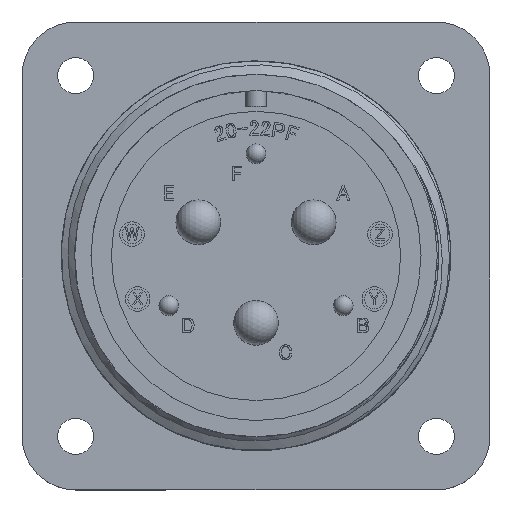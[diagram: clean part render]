
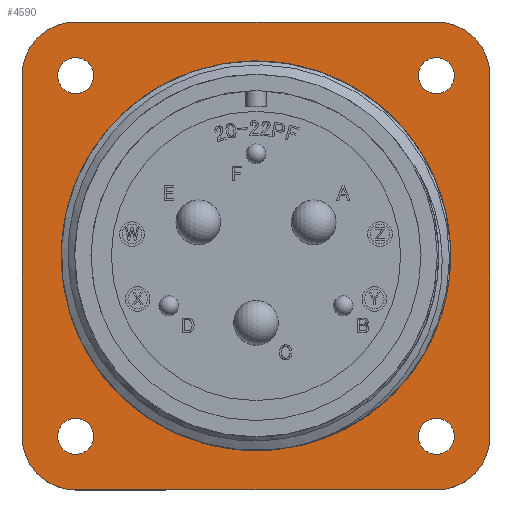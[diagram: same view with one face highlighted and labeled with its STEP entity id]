
A CAD part, top view. The second image highlights one B-rep face of the part: STEP entity #4590.
In plain terms, the highlighted planar face has unit normal (0, 0, 1).
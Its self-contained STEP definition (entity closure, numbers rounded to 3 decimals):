
#312 = VERTEX_POINT ( 'NONE', #29343 ) ;
#724 = CARTESIAN_POINT ( 'NONE',  ( 16.15, 14.685, -19.24 ) ) ;
#1173 = DIRECTION ( 'NONE',  ( 0., 1., 0. ) ) ;
#1217 = CIRCLE ( 'NONE', #15092, 1.465 ) ;
#1410 = CARTESIAN_POINT ( 'NONE',  ( -14.68, -19.05, -19.24 ) ) ;
#1427 = DIRECTION ( 'NONE',  ( 1., 0., 0. ) ) ;
#1514 = DIRECTION ( 'NONE',  ( 0., 0., 1. ) ) ;
#1749 = PLANE ( 'NONE',  #9913 ) ;
#2281 = DIRECTION ( 'NONE',  ( 1., 0., 0. ) ) ;
#2464 = DIRECTION ( 'NONE',  ( 0., -1., 0. ) ) ;
#2487 = EDGE_CURVE ( 'NONE', #3847, #20342, #5846, .T. ) ;
#2600 = CIRCLE ( 'NONE', #15945, 4.37 ) ;
#2661 = CARTESIAN_POINT ( 'NONE',  ( -14.68, 19.05, -19.24 ) ) ;
#3239 = CARTESIAN_POINT ( 'NONE',  ( -14.68, 19.05, -19.24 ) ) ;
#3271 = VERTEX_POINT ( 'NONE', #15552 ) ;
#3437 = CARTESIAN_POINT ( 'NONE',  ( 14.685, 14.685, -19.24 ) ) ;
#3646 = CIRCLE ( 'NONE', #27382, 1.465 ) ;
#3789 = AXIS2_PLACEMENT_3D ( 'NONE', #3437, #14657, #1427 ) ;
#3847 = VERTEX_POINT ( 'NONE', #2661 ) ;
#3963 = AXIS2_PLACEMENT_3D ( 'NONE', #7574, #21047, #9480 ) ;
#4055 = DIRECTION ( 'NONE',  ( -1., 0., 0. ) ) ;
#4519 = VECTOR ( 'NONE', #25358, 1000. ) ;
#4590 = ADVANCED_FACE ( 'NONE', ( #18224, #17866, #17146, #11130, #16449, #10419 ), #1749, .F. ) ;
#5628 = ORIENTED_EDGE ( 'NONE', *, *, #20134, .F. ) ;
#5810 = ORIENTED_EDGE ( 'NONE', *, *, #19219, .T. ) ;
#5846 = CIRCLE ( 'NONE', #3963, 4.37 ) ;
#6413 = ORIENTED_EDGE ( 'NONE', *, *, #2487, .T. ) ;
#6441 = VERTEX_POINT ( 'NONE', #16338 ) ;
#6987 = DIRECTION ( 'NONE',  ( 0., 0., 1. ) ) ;
#7023 = CARTESIAN_POINT ( 'NONE',  ( -15.855, 0., -19.24 ) ) ;
#7183 = CARTESIAN_POINT ( 'NONE',  ( 0., 0., -19.24 ) ) ;
#7574 = CARTESIAN_POINT ( 'NONE',  ( -14.68, 14.68, -19.24 ) ) ;
#7725 = ORIENTED_EDGE ( 'NONE', *, *, #18468, .T. ) ;
#8230 = CARTESIAN_POINT ( 'NONE',  ( -14.685, -14.685, -19.24 ) ) ;
#8465 = AXIS2_PLACEMENT_3D ( 'NONE', #7183, #6987, #11759 ) ;
#8971 = DIRECTION ( 'NONE',  ( 0., 0., 1. ) ) ;
#9324 = ORIENTED_EDGE ( 'NONE', *, *, #20627, .T. ) ;
#9480 = DIRECTION ( 'NONE',  ( -1., 0., 0. ) ) ;
#9528 = VERTEX_POINT ( 'NONE', #24849 ) ;
#9606 = CARTESIAN_POINT ( 'NONE',  ( 14.685, -16.15, -19.24 ) ) ;
#9807 = CARTESIAN_POINT ( 'NONE',  ( 14.68, 14.68, -19.24 ) ) ;
#9913 = AXIS2_PLACEMENT_3D ( 'NONE', #23979, #24384, #4055 ) ;
#10419 = FACE_BOUND ( 'NONE', #18592, .T. ) ;
#10603 = AXIS2_PLACEMENT_3D ( 'NONE', #9807, #27815, #25645 ) ;
#10784 = CIRCLE ( 'NONE', #10603, 4.37 ) ;
#10790 = DIRECTION ( 'NONE',  ( 1., 0., 0. ) ) ;
#10983 = VERTEX_POINT ( 'NONE', #17490 ) ;
#11007 = VECTOR ( 'NONE', #10790, 1000. ) ;
#11130 = FACE_BOUND ( 'NONE', #21541, .T. ) ;
#11233 = EDGE_CURVE ( 'NONE', #28095, #28095, #16191, .T. ) ;
#11532 = EDGE_LOOP ( 'NONE', ( #23604 ) ) ;
#11759 = DIRECTION ( 'NONE',  ( -1., 0., 0. ) ) ;
#11827 = CARTESIAN_POINT ( 'NONE',  ( 19.05, -14.68, -19.24 ) ) ;
#11891 = EDGE_LOOP ( 'NONE', ( #5628 ) ) ;
#13039 = CARTESIAN_POINT ( 'NONE',  ( 14.68, -14.68, -19.24 ) ) ;
#13246 = DIRECTION ( 'NONE',  ( 0., 1., 0. ) ) ;
#13573 = CARTESIAN_POINT ( 'NONE',  ( -19.05, 14.68, -19.24 ) ) ;
#13718 = VERTEX_POINT ( 'NONE', #11827 ) ;
#14296 = AXIS2_PLACEMENT_3D ( 'NONE', #26241, #1514, #21556 ) ;
#14657 = DIRECTION ( 'NONE',  ( 0., 0., 1. ) ) ;
#14735 = EDGE_CURVE ( 'NONE', #10983, #13718, #2600, .T. ) ;
#14930 = VECTOR ( 'NONE', #1173, 1000. ) ;
#15092 = AXIS2_PLACEMENT_3D ( 'NONE', #25189, #27555, #2464 ) ;
#15525 = EDGE_CURVE ( 'NONE', #312, #3847, #27067, .T. ) ;
#15552 = CARTESIAN_POINT ( 'NONE',  ( -19.05, -14.68, -19.24 ) ) ;
#15697 = EDGE_LOOP ( 'NONE', ( #22510 ) ) ;
#15908 = CIRCLE ( 'NONE', #14296, 4.37 ) ;
#15945 = AXIS2_PLACEMENT_3D ( 'NONE', #13039, #18082, #2281 ) ;
#16191 = CIRCLE ( 'NONE', #8465, 15.855 ) ;
#16338 = CARTESIAN_POINT ( 'NONE',  ( -14.685, 16.15, -19.24 ) ) ;
#16340 = EDGE_LOOP ( 'NONE', ( #6413, #24431, #9324, #5810, #29477, #7725, #23344, #26084 ) ) ;
#16449 = FACE_OUTER_BOUND ( 'NONE', #16340, .T. ) ;
#16638 = CARTESIAN_POINT ( 'NONE',  ( -16.15, -14.685, -19.24 ) ) ;
#17146 = FACE_BOUND ( 'NONE', #11532, .T. ) ;
#17174 = CARTESIAN_POINT ( 'NONE',  ( 19.05, 14.68, -19.24 ) ) ;
#17296 = LINE ( 'NONE', #27721, #4519 ) ;
#17490 = CARTESIAN_POINT ( 'NONE',  ( 14.68, -19.05, -19.24 ) ) ;
#17866 = FACE_BOUND ( 'NONE', #11891, .T. ) ;
#18082 = DIRECTION ( 'NONE',  ( 0., 0., 1. ) ) ;
#18224 = FACE_BOUND ( 'NONE', #15697, .T. ) ;
#18468 = EDGE_CURVE ( 'NONE', #13718, #18552, #24145, .T. ) ;
#18552 = VERTEX_POINT ( 'NONE', #19825 ) ;
#18592 = EDGE_LOOP ( 'NONE', ( #25385 ) ) ;
#18845 = EDGE_CURVE ( 'NONE', #27711, #27711, #26960, .T. ) ;
#19110 = DIRECTION ( 'NONE',  ( -1., 0., 0. ) ) ;
#19219 = EDGE_CURVE ( 'NONE', #9528, #10983, #20202, .T. ) ;
#19825 = CARTESIAN_POINT ( 'NONE',  ( 19.05, 14.68, -19.24 ) ) ;
#19906 = VERTEX_POINT ( 'NONE', #9606 ) ;
#20134 = EDGE_CURVE ( 'NONE', #23106, #23106, #25126, .T. ) ;
#20202 = LINE ( 'NONE', #1410, #11007 ) ;
#20342 = VERTEX_POINT ( 'NONE', #13573 ) ;
#20627 = EDGE_CURVE ( 'NONE', #3271, #9528, #15908, .T. ) ;
#21010 = VECTOR ( 'NONE', #19110, 1000. ) ;
#21047 = DIRECTION ( 'NONE',  ( 0., 0., 1. ) ) ;
#21257 = EDGE_CURVE ( 'NONE', #6441, #6441, #3646, .T. ) ;
#21541 = EDGE_LOOP ( 'NONE', ( #25500 ) ) ;
#21556 = DIRECTION ( 'NONE',  ( -1., 0., 0. ) ) ;
#22510 = ORIENTED_EDGE ( 'NONE', *, *, #25863, .F. ) ;
#23106 = VERTEX_POINT ( 'NONE', #16638 ) ;
#23344 = ORIENTED_EDGE ( 'NONE', *, *, #28160, .T. ) ;
#23604 = ORIENTED_EDGE ( 'NONE', *, *, #21257, .F. ) ;
#23788 = DIRECTION ( 'NONE',  ( 0., 0., 1. ) ) ;
#23979 = CARTESIAN_POINT ( 'NONE',  ( -14.68, 14.68, -19.24 ) ) ;
#24145 = LINE ( 'NONE', #17174, #14930 ) ;
#24384 = DIRECTION ( 'NONE',  ( 0., 0., -1. ) ) ;
#24431 = ORIENTED_EDGE ( 'NONE', *, *, #24473, .T. ) ;
#24443 = CARTESIAN_POINT ( 'NONE',  ( -14.685, 14.685, -19.24 ) ) ;
#24473 = EDGE_CURVE ( 'NONE', #20342, #3271, #17296, .T. ) ;
#24849 = CARTESIAN_POINT ( 'NONE',  ( -14.68, -19.05, -19.24 ) ) ;
#25126 = CIRCLE ( 'NONE', #29089, 1.465 ) ;
#25189 = CARTESIAN_POINT ( 'NONE',  ( 14.685, -14.685, -19.24 ) ) ;
#25358 = DIRECTION ( 'NONE',  ( 0., -1., 0. ) ) ;
#25385 = ORIENTED_EDGE ( 'NONE', *, *, #11233, .F. ) ;
#25500 = ORIENTED_EDGE ( 'NONE', *, *, #18845, .F. ) ;
#25645 = DIRECTION ( 'NONE',  ( -1., 0., 0. ) ) ;
#25863 = EDGE_CURVE ( 'NONE', #19906, #19906, #1217, .T. ) ;
#26084 = ORIENTED_EDGE ( 'NONE', *, *, #15525, .T. ) ;
#26241 = CARTESIAN_POINT ( 'NONE',  ( -14.68, -14.68, -19.24 ) ) ;
#26960 = CIRCLE ( 'NONE', #3789, 1.465 ) ;
#27067 = LINE ( 'NONE', #3239, #21010 ) ;
#27382 = AXIS2_PLACEMENT_3D ( 'NONE', #24443, #8971, #13246 ) ;
#27555 = DIRECTION ( 'NONE',  ( 0., 0., 1. ) ) ;
#27711 = VERTEX_POINT ( 'NONE', #724 ) ;
#27721 = CARTESIAN_POINT ( 'NONE',  ( -19.05, 14.68, -19.24 ) ) ;
#27815 = DIRECTION ( 'NONE',  ( 0., 0., 1. ) ) ;
#28095 = VERTEX_POINT ( 'NONE', #7023 ) ;
#28160 = EDGE_CURVE ( 'NONE', #18552, #312, #10784, .T. ) ;
#28553 = DIRECTION ( 'NONE',  ( -1., 0., 0. ) ) ;
#29089 = AXIS2_PLACEMENT_3D ( 'NONE', #8230, #23788, #28553 ) ;
#29343 = CARTESIAN_POINT ( 'NONE',  ( 14.68, 19.05, -19.24 ) ) ;
#29477 = ORIENTED_EDGE ( 'NONE', *, *, #14735, .T. ) ;
